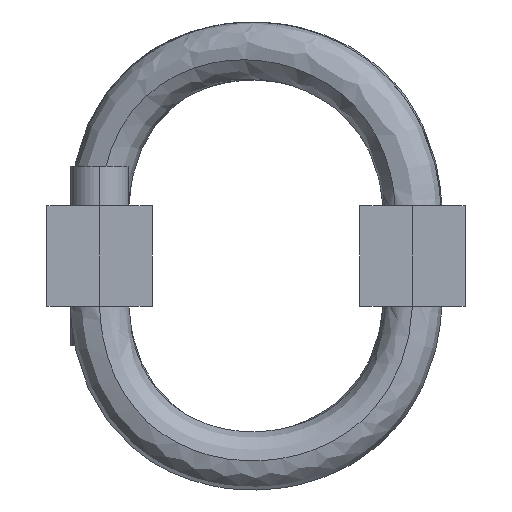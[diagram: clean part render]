
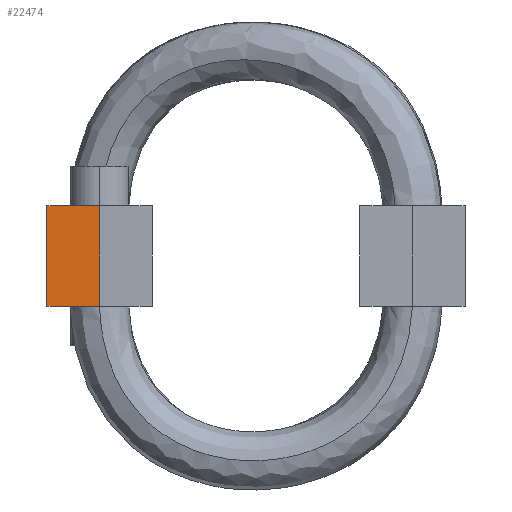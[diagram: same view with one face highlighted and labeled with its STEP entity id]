
A CAD part, left-side view. The second image highlights one B-rep face of the part: STEP entity #22474.
In plain terms, the highlighted planar face has unit normal (-1, 0, 0).
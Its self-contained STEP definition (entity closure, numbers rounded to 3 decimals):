
#1870 = CARTESIAN_POINT ( 'NONE',  ( -184.15, 59.5, -19.05 ) ) ;
#3370 = DIRECTION ( 'NONE',  ( 0., 0., 1. ) ) ;
#4273 = LINE ( 'NONE', #34967, #35033 ) ;
#5383 = ORIENTED_EDGE ( 'NONE', *, *, #26200, .F. ) ;
#6192 = LINE ( 'NONE', #11895, #7092 ) ;
#7092 = VECTOR ( 'NONE', #35056, 1000. ) ;
#9919 = DIRECTION ( 'NONE',  ( 0., 0., 1. ) ) ;
#11293 = VERTEX_POINT ( 'NONE', #29234 ) ;
#11895 = CARTESIAN_POINT ( 'NONE',  ( -184.15, 59.5, -19.05 ) ) ;
#12743 = CARTESIAN_POINT ( 'NONE',  ( -184.15, 79.5, -19.05 ) ) ;
#15606 = EDGE_LOOP ( 'NONE', ( #31008, #20953, #5383, #34155 ) ) ;
#15701 = EDGE_CURVE ( 'NONE', #33233, #11293, #24462, .T. ) ;
#16759 = VECTOR ( 'NONE', #3370, 1000. ) ;
#18316 = FACE_OUTER_BOUND ( 'NONE', #15606, .T. ) ;
#19882 = VECTOR ( 'NONE', #21769, 1000. ) ;
#20953 = ORIENTED_EDGE ( 'NONE', *, *, #15701, .F. ) ;
#21699 = LINE ( 'NONE', #27469, #19882 ) ;
#21769 = DIRECTION ( 'NONE',  ( 0., 1., 0. ) ) ;
#22474 = ADVANCED_FACE ( 'NONE', ( #18316 ), #24320, .T. ) ;
#23502 = EDGE_CURVE ( 'NONE', #11293, #25116, #4273, .T. ) ;
#24320 = PLANE ( 'NONE',  #25290 ) ;
#24462 = LINE ( 'NONE', #26507, #16759 ) ;
#25116 = VERTEX_POINT ( 'NONE', #37599 ) ;
#25290 = AXIS2_PLACEMENT_3D ( 'NONE', #30007, #27234, #9919 ) ;
#26200 = EDGE_CURVE ( 'NONE', #34164, #33233, #21699, .T. ) ;
#26507 = CARTESIAN_POINT ( 'NONE',  ( -184.15, 79.5, -19.05 ) ) ;
#27234 = DIRECTION ( 'NONE',  ( -1., 0., 0. ) ) ;
#27469 = CARTESIAN_POINT ( 'NONE',  ( -184.15, 79.5, -19.05 ) ) ;
#28678 = DIRECTION ( 'NONE',  ( 0., -1., 0. ) ) ;
#29234 = CARTESIAN_POINT ( 'NONE',  ( -184.15, 79.5, 19.05 ) ) ;
#29244 = EDGE_CURVE ( 'NONE', #25116, #34164, #6192, .T. ) ;
#30007 = CARTESIAN_POINT ( 'NONE',  ( -184.15, 69.5, 0. ) ) ;
#31008 = ORIENTED_EDGE ( 'NONE', *, *, #23502, .F. ) ;
#33233 = VERTEX_POINT ( 'NONE', #12743 ) ;
#34155 = ORIENTED_EDGE ( 'NONE', *, *, #29244, .F. ) ;
#34164 = VERTEX_POINT ( 'NONE', #1870 ) ;
#34967 = CARTESIAN_POINT ( 'NONE',  ( -184.15, 79.5, 19.05 ) ) ;
#35033 = VECTOR ( 'NONE', #28678, 1000. ) ;
#35056 = DIRECTION ( 'NONE',  ( 0., 0., -1. ) ) ;
#37599 = CARTESIAN_POINT ( 'NONE',  ( -184.15, 59.5, 19.05 ) ) ;
